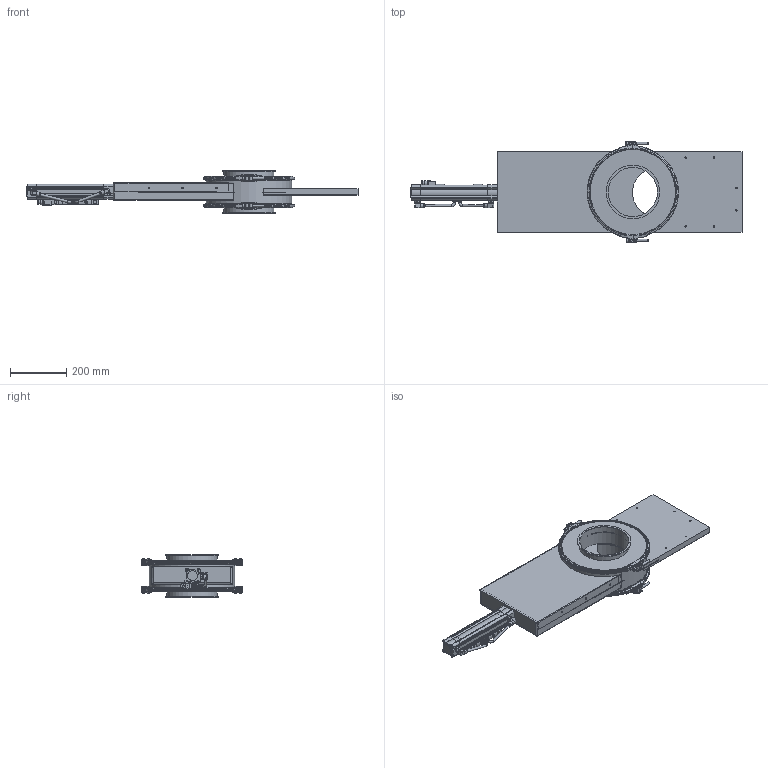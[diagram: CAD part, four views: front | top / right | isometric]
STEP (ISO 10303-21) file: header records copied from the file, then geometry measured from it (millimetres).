
FILE_DESCRIPTION((''),'2;1');
FILE_NAME('U:\Wolfgang\Marcel-3D\fertig\Kapitel 9\1721093.stp','2011-10-11T12:54:40',('iwienholt'),(''),'Autodesk Inventor 2010','Autodesk Inventor 2010','');
FILE_SCHEMA(('AUTOMOTIVE_DESIGN { 1 0 10303 214 1 1 1 1 }'));
Length unit declared in the file: millimetre
Products named in the file (25): 1721093; Einheit DN175; 3022055; 3022055-1; Verschluss b=324; Verschlussrolle; VerschlussrolleGewinde; ISO 4762 M8 x 70; 3022055-Dichtmasse; P.Schibereinheit DN175; 532744_DNCB_40_200_PPV_A_6_0; 532744_DNCB_40_200_PPV_A_6_01; 532744_DNCB_40_200_PPV_A_6_02; 537600_VUVB_S_B42_ZD_Q8_3AC1_6_0; 537600_VUVB_S_B42_ZD_Q8_3AC1_6_01; 537600_VUVB_S_B42_ZD_Q8_3AC1_6_02; 537600_VUVB_S_B42_ZD_Q8_3AC1_6_03; 4527_MSFG_24_42_50_60_6_0; 4527_MSFG_24_42_50_60_6_01; 4527_MSFG_24_42_50_60_6_02; 153414_QSRL_1_4_8_6_0; schlauch2; schlauch; 13570_CRSG_M12x125_6_0; P.Schieber DN175
Assembly tree (33 placements, depth 4):
  1721093
    Einheit DN175
    3022055  x2
      3022055-1
      Verschluss b=324
      Verschlussrolle
      VerschlussrolleGewinde
      ISO 4762 M8 x 70
      3022055-Dichtmasse
    P.Schibereinheit DN175
      532744_DNCB_40_200_PPV_A_6_0
        532744_DNCB_40_200_PPV_A_6_01
        532744_DNCB_40_200_PPV_A_6_02
      537600_VUVB_S_B42_ZD_Q8_3AC1_6_0
        537600_VUVB_S_B42_ZD_Q8_3AC1_6_01
        537600_VUVB_S_B42_ZD_Q8_3AC1_6_02
        537600_VUVB_S_B42_ZD_Q8_3AC1_6_03
      4527_MSFG_24_42_50_60_6_0
        4527_MSFG_24_42_50_60_6_01
        4527_MSFG_24_42_50_60_6_02
      153414_QSRL_1_4_8_6_0  x2
      schlauch2
      schlauch
      13570_CRSG_M12x125_6_0
      P.Schieber DN175
Bounding box: 1176.61 x 357.99 x 150 mm (x, y, z)
Volume: 4574809.7 mm3; surface area: 2004479.2 mm2
Topology: 40 solids, 40 shells, 1794 faces, 4594 edges, 2987 vertices
Faces by surface type: plane 751, cylinder 573, cone 228, bspline 200, torus 42
Full cylindrical faces by diameter (mm): 1 x3, 2.459 x1, 3 x2, 3.5 x1, 4 x1, 4.5 x1, 4.917 x8, 5 x21, 5.471 x2, 5.5 x1, 6 x21, 7.188 x1, 8 x29, 8.05 x1, 9 x1, 9.6 x2, 9.653 x1, 10.15 x2, 11.2 x2, 11.445 x2, 12 x12, 13 x4, 13.05 x2, 13.157 x2, 14 x6, 14.4 x4, 14.5 x2, 14.7 x6, 15.1 x2, 15.2 x1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
Entity records: 33074 total; most frequent: CARTESIAN_POINT 7647, DIRECTION 5296, ORIENTED_EDGE 4752, EDGE_CURVE 2376, AXIS2_PLACEMENT_3D 1988, VERTEX_POINT 1649, EDGE_LOOP 1429, VECTOR 1320
